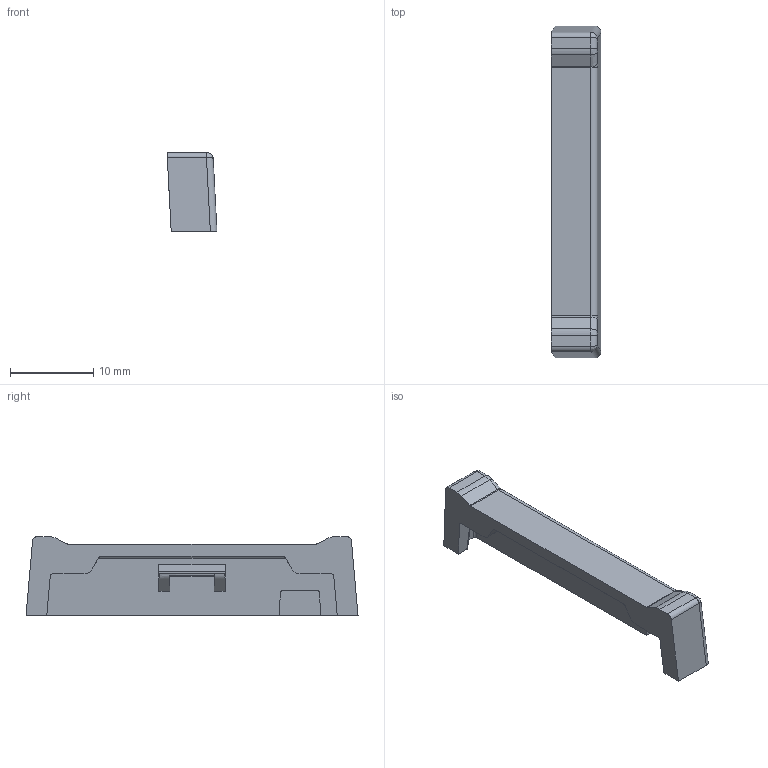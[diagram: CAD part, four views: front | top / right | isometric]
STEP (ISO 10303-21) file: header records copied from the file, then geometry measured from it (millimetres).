
FILE_DESCRIPTION(('CATIA V5 STEP Exchange'),'2;1');
FILE_NAME('C:\Users\jouko.kotitalo\Desktop\pdf_exports\F15856_LINNEA-END-MS Mechanical model.stp','2017-02-16T14:04:09+00:00',('none'),('none'),'CATIA Version 5-6 Release 2013 SP4','CATIA V5 STEP AP203','none');
FILE_SCHEMA(('CONFIG_CONTROL_DESIGN'));
Length unit declared in the file: millimetre
Products named in the file (1): F15856
Bounding box: 6.02 x 40 x 9.5 mm (x, y, z)
Volume: 904.5 mm3; surface area: 1353.2 mm2
Topology: 1 solids, 1 shells, 125 faces, 322 edges, 192 vertices
Faces by surface type: cylinder 48, plane 41, bspline 34, sphere 2
Entity records: 5215 total; most frequent: CARTESIAN_POINT 2675, ORIENTED_EDGE 628, DIRECTION 317, EDGE_CURVE 314, VERTEX_POINT 192, B_SPLINE_CURVE_WITH_KNOTS 171, EDGE_LOOP 126, ADVANCED_FACE 125
